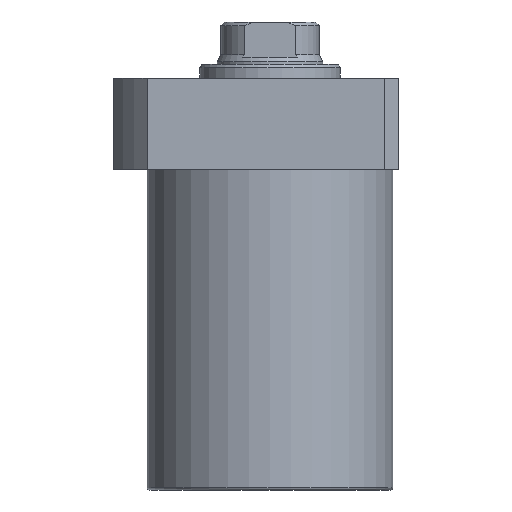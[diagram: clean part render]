
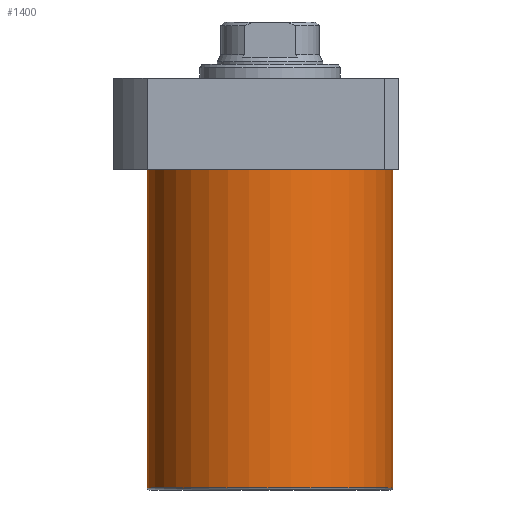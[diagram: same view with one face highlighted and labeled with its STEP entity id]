
A CAD part, front view. The second image highlights one B-rep face of the part: STEP entity #1400.
In plain terms, the highlighted cylindrical face has radius 52.5 mm (diameter 105 mm), a partial arc.
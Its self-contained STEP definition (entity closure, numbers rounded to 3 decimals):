
#49 = DIRECTION ( 'NONE',  ( 1., 0., 0. ) ) ;
#146 = CIRCLE ( 'NONE', #728, 52.5 ) ;
#213 = AXIS2_PLACEMENT_3D ( 'NONE', #384, #843, #1473 ) ;
#384 = CARTESIAN_POINT ( 'NONE',  ( 0., 0., -155.5 ) ) ;
#391 = ORIENTED_EDGE ( 'NONE', *, *, #800, .T. ) ;
#445 = CIRCLE ( 'NONE', #213, 52.5 ) ;
#488 = FACE_OUTER_BOUND ( 'NONE', #1839, .T. ) ;
#521 = DIRECTION ( 'NONE',  ( 1., 0., 0. ) ) ;
#614 = VERTEX_POINT ( 'NONE', #1970 ) ;
#632 = LINE ( 'NONE', #914, #751 ) ;
#689 = ORIENTED_EDGE ( 'NONE', *, *, #1201, .T. ) ;
#703 = LINE ( 'NONE', #1719, #1832 ) ;
#728 = AXIS2_PLACEMENT_3D ( 'NONE', #1867, #968, #521 ) ;
#742 = CARTESIAN_POINT ( 'NONE',  ( -52.5, 0., -155.5 ) ) ;
#751 = VECTOR ( 'NONE', #1819, 1000. ) ;
#755 = ORIENTED_EDGE ( 'NONE', *, *, #921, .T. ) ;
#800 = EDGE_CURVE ( 'NONE', #1208, #1321, #146, .T. ) ;
#843 = DIRECTION ( 'NONE',  ( 0., 0., 1. ) ) ;
#914 = CARTESIAN_POINT ( 'NONE',  ( 52.5, 0., -156.5 ) ) ;
#921 = EDGE_CURVE ( 'NONE', #1109, #614, #445, .T. ) ;
#968 = DIRECTION ( 'NONE',  ( 0., 0., -1. ) ) ;
#1109 = VERTEX_POINT ( 'NONE', #742 ) ;
#1201 = EDGE_CURVE ( 'NONE', #614, #1208, #632, .T. ) ;
#1208 = VERTEX_POINT ( 'NONE', #1968 ) ;
#1221 = CYLINDRICAL_SURFACE ( 'NONE', #1562, 52.5 ) ;
#1294 = ORIENTED_EDGE ( 'NONE', *, *, #1328, .F. ) ;
#1321 = VERTEX_POINT ( 'NONE', #1409 ) ;
#1328 = EDGE_CURVE ( 'NONE', #1109, #1321, #703, .T. ) ;
#1340 = CARTESIAN_POINT ( 'NONE',  ( 0., 0., -156.5 ) ) ;
#1400 = ADVANCED_FACE ( 'NONE', ( #488 ), #1221, .T. ) ;
#1409 = CARTESIAN_POINT ( 'NONE',  ( -52.5, 0., -19.5 ) ) ;
#1454 = DIRECTION ( 'NONE',  ( 0., 0., 1. ) ) ;
#1473 = DIRECTION ( 'NONE',  ( -1., 0., 0. ) ) ;
#1562 = AXIS2_PLACEMENT_3D ( 'NONE', #1340, #1732, #49 ) ;
#1719 = CARTESIAN_POINT ( 'NONE',  ( -52.5, 0., -156.5 ) ) ;
#1732 = DIRECTION ( 'NONE',  ( 0., 0., 1. ) ) ;
#1819 = DIRECTION ( 'NONE',  ( 0., 0., 1. ) ) ;
#1832 = VECTOR ( 'NONE', #1454, 1000. ) ;
#1839 = EDGE_LOOP ( 'NONE', ( #1294, #755, #689, #391 ) ) ;
#1867 = CARTESIAN_POINT ( 'NONE',  ( 0., 0., -19.5 ) ) ;
#1968 = CARTESIAN_POINT ( 'NONE',  ( 52.5, 0., -19.5 ) ) ;
#1970 = CARTESIAN_POINT ( 'NONE',  ( 52.5, 0., -155.5 ) ) ;
